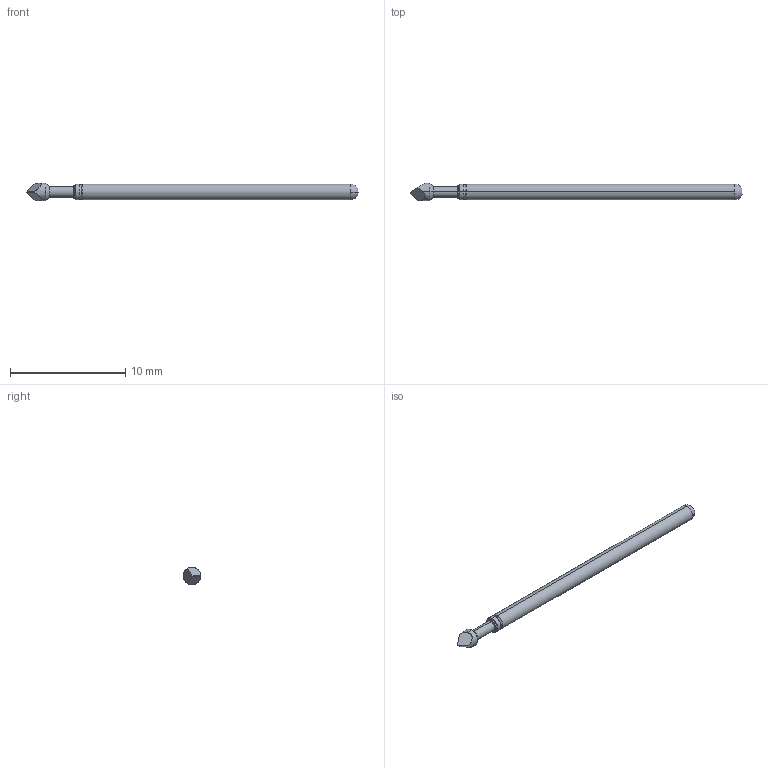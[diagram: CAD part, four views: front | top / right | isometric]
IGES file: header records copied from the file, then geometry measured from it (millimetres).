
Start section: SolidWorks IGES file using analytic representation for surfaces
Global section: file name: Z:\probe solid model mockups\Solidworks models\POGO-25 IGS files\POGO-25T RECD.IGS; native system: SolidWorks 2006 by SolidWorks Corporation; preprocessor: SolidWorks 2006 by SolidWorks Corporation; author: tsakatani; date: 071214.093244; units: inch
Bounding box: 28.78 x 1.52 x 1.52 mm (x, y, z)
Surface area: 121.5 mm2 (no closed solid volume)
Topology: 0 solids, 0 shells, 25 faces, 184 edges, 184 vertices
Faces by surface type: revolution 16, bspline 9
